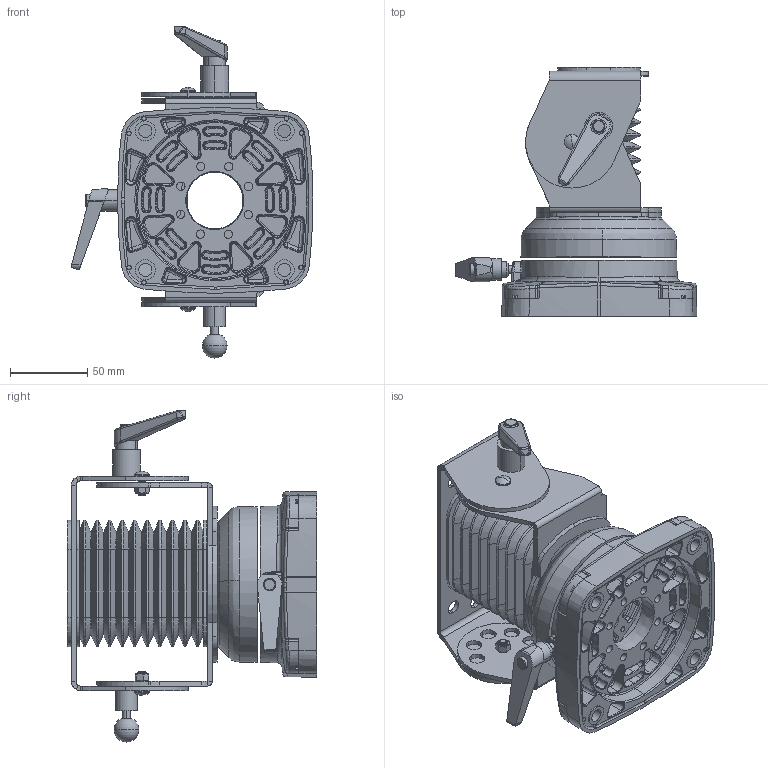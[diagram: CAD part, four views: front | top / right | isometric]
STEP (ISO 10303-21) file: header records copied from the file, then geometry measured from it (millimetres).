
FILE_DESCRIPTION (( 'STEP AP203' ), '1' );
FILE_NAME ('TP.045.3430.STEP', '2026-09-30T08:05:06', ( '' ), ( '' ), 'SwSTEP 2.0', 'SolidWorks 2015', '' );
FILE_SCHEMA (( 'CONFIG_CONTROL_DESIGN' ));
Length unit declared in the file: millimetre
Products named in the file (22): TP.045.Serrated Washer; kovan_1; disli parca_3; Part13^Assem10; Part11^Assem10; TP_045.600; M6_mushroom head_square neck_m5; yay; TP.045.Disk; Assem10_3; M5 Fiberli Somun(HDSM05000001); metalconta; sýkma yataðý; Copy (3) of 6206_300__W_0__3; Part12^Assem10; TP.45.600; TP.045.3430; 45-4 K; Part10^Assem10; kaucuk koruk_duz ezilmiŸ; TP.045.1634; Hit_Körüklü_Aparat_Dönerli_Büküm_Çizim.DXF
Assembly tree (20 placements, depth 4):
  Part11^Assem10
  Part12^Assem10
  TP.045.3430
    45-4 K
    sýkma yataðý
    Assem10_3
      kovan_1
      disli parca_3
      Part13^Assem10
      yay
    M6_mushroom head_square neck_m5  x2
    M5 Fiberli Somun(HDSM05000001)  x2
    kaucuk koruk_duz ezilmiŸ
    Copy (3) of 6206_300__W_0__3
    Hit_Körüklü_Aparat_Dönerli_Büküm_Çizim.DXF
    metalconta
    TP.045.1634
      TP.45.600
        TP_045.600
        TP.045.Serrated Washer
      TP.045.Disk
  Part10^Assem10
Bounding box: 156.36 x 161.31 x 215.07 mm (x, y, z)
Volume: 416630 mm3; surface area: 274339.1 mm2
Topology: 21 solids, 29 shells, 3071 faces, 7231 edges, 4261 vertices
Faces by surface type: bspline 944, cylinder 669, plane 575, torus 459, cone 412, sphere 12
Entity records: 158743 total; most frequent: CARTESIAN_POINT 96134, ORIENTED_EDGE 14018, DIRECTION 10154, EDGE_CURVE 7009, AXIS2_PLACEMENT_3D 4213, VERTEX_POINT 4159, EDGE_LOOP 3208, B_SPLINE_CURVE_WITH_KNOTS 3062
